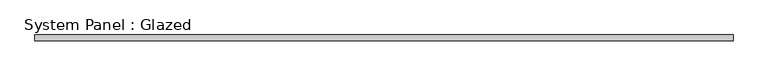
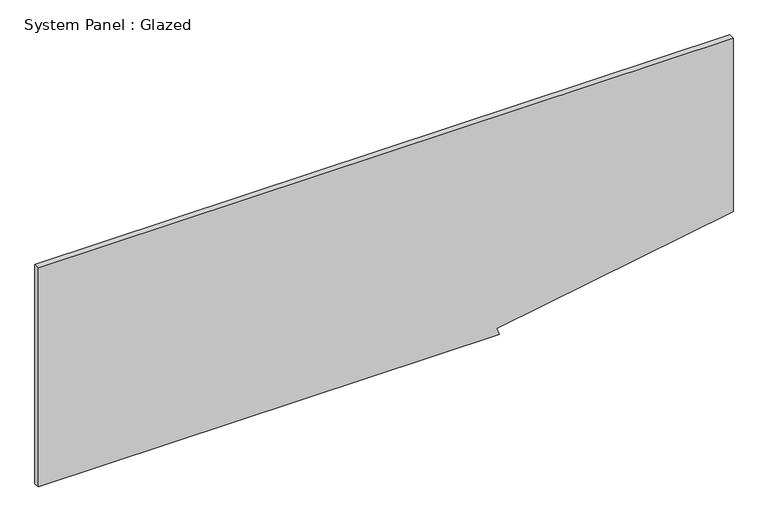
"""IFC4 building model written with IfcOpenShell, lengths in millimetres: plate geometry, System Panel : Glazed."""

from ifc_helpers import new_model, si_unit, frame, origin, place, context, project, spatial, polyline, outline, extrude, source, transform, mapped, element, save


def system_panel_glazed_2896c521(model_context):
    return source(origin(), model_context, "Body", "SweptSolid", [
        extrude(outline(polyline([(0.0, -1504.95), (0.0, 491.3669603), (30.8086439, 480.4735643), (209.201697, 1504.95), (1003.3, 1504.95), (1003.3, -1504.95), (0.0, -1504.95)])), frame((0.0, 19.05, 0.0), z_axis=(0.0, 1.0, 0.0), x_axis=(0.0, 0.0, 1.0)), (0.0, 0.0, 1.0), 25.4),
    ])


if __name__ == "__main__":
    model = new_model("IFC4")
    model_context = context("Model", 3, world=origin())
    ifc_project = project(units=[si_unit("LENGTHUNIT", "METRE", prefix="MILLI")], contexts=[model_context])
    site = spatial("IfcSite", under=ifc_project)
    building = spatial("IfcBuilding", under=site)
    placement = place(None, origin())
    system_panel_glazed_shape = system_panel_glazed_2896c521(model_context)
    element("IfcPlate", 1, ObjectType="System Panel : Glazed", at=placement, inside=building, context=model_context, shape_type="MappedRepresentation", body=[
        mapped(system_panel_glazed_shape, transform((0.0, 0.0, 0.0), x_axis=(1.0, 0.0, 0.0), y_axis=(0.0, 1.0, 0.0), z_axis=(0.0, 0.0, 1.0))),
    ])
    save(model, "model.ifc")
